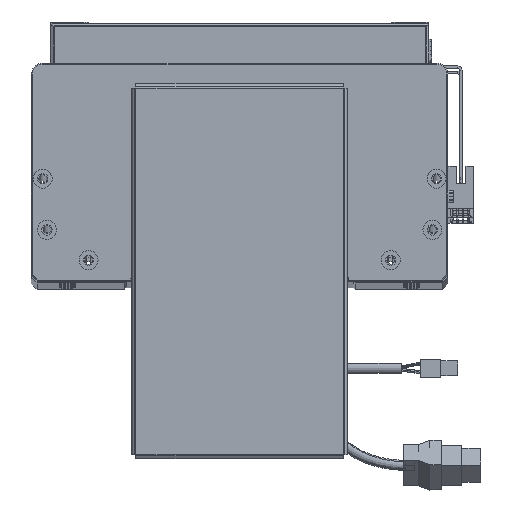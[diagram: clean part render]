
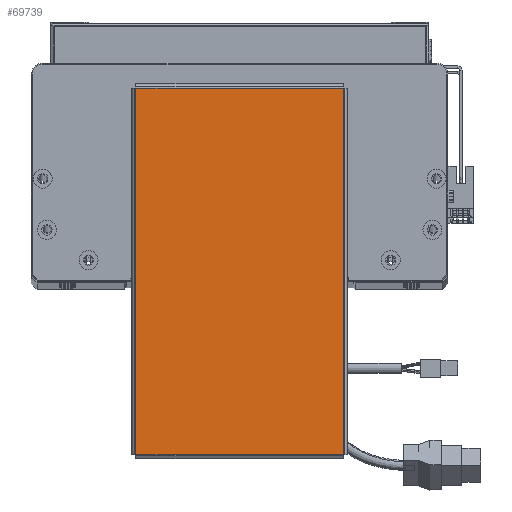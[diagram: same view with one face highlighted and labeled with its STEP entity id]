
A CAD part, top view. The second image highlights one B-rep face of the part: STEP entity #69739.
In plain terms, the highlighted planar face has unit normal (0, 0, 1).
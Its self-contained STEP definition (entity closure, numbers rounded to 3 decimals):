
#726 = DIRECTION ( 'NONE',  ( 0., 1., 0. ) ) ;
#3286 = ORIENTED_EDGE ( 'NONE', *, *, #60124, .T. ) ;
#7740 = CARTESIAN_POINT ( 'NONE',  ( 96.763, -54.763, 0. ) ) ;
#9242 = PLANE ( 'NONE',  #65693 ) ;
#9305 = VECTOR ( 'NONE', #40454, 1000. ) ;
#9410 = EDGE_CURVE ( 'NONE', #17621, #32108, #39994, .T. ) ;
#15852 = VECTOR ( 'NONE', #55892, 1000. ) ;
#16167 = VERTEX_POINT ( 'NONE', #57991 ) ;
#17596 = VECTOR ( 'NONE', #56429, 1000. ) ;
#17621 = VERTEX_POINT ( 'NONE', #43549 ) ;
#20040 = ORIENTED_EDGE ( 'NONE', *, *, #9410, .T. ) ;
#20904 = CARTESIAN_POINT ( 'NONE',  ( 0., 0., 0. ) ) ;
#27441 = EDGE_CURVE ( 'NONE', #32108, #16167, #60222, .T. ) ;
#28290 = CARTESIAN_POINT ( 'NONE',  ( -96.763, 54.793, 0. ) ) ;
#30490 = LINE ( 'NONE', #28290, #15852 ) ;
#32108 = VERTEX_POINT ( 'NONE', #7740 ) ;
#35984 = FACE_OUTER_BOUND ( 'NONE', #51076, .T. ) ;
#36862 = DIRECTION ( 'NONE',  ( 0., 0., 1. ) ) ;
#38262 = CARTESIAN_POINT ( 'NONE',  ( -96.763, 54.763, 0. ) ) ;
#38512 = VERTEX_POINT ( 'NONE', #38262 ) ;
#39994 = LINE ( 'NONE', #45860, #17596 ) ;
#40454 = DIRECTION ( 'NONE',  ( -1., 0., 0. ) ) ;
#41086 = LINE ( 'NONE', #45214, #9305 ) ;
#43549 = CARTESIAN_POINT ( 'NONE',  ( -96.763, -54.763, 0. ) ) ;
#43828 = EDGE_CURVE ( 'NONE', #38512, #17621, #30490, .T. ) ;
#45214 = CARTESIAN_POINT ( 'NONE',  ( 96.793, 54.763, 0. ) ) ;
#45860 = CARTESIAN_POINT ( 'NONE',  ( -96.793, -54.763, 0. ) ) ;
#47601 = DIRECTION ( 'NONE',  ( 1., 0., 0. ) ) ;
#51076 = EDGE_LOOP ( 'NONE', ( #20040, #65383, #3286, #52457 ) ) ;
#52457 = ORIENTED_EDGE ( 'NONE', *, *, #43828, .T. ) ;
#54195 = VECTOR ( 'NONE', #726, 1000. ) ;
#55892 = DIRECTION ( 'NONE',  ( 0., -1., 0. ) ) ;
#56429 = DIRECTION ( 'NONE',  ( 1., 0., 0. ) ) ;
#57991 = CARTESIAN_POINT ( 'NONE',  ( 96.763, 54.763, 0. ) ) ;
#60124 = EDGE_CURVE ( 'NONE', #16167, #38512, #41086, .T. ) ;
#60222 = LINE ( 'NONE', #66387, #54195 ) ;
#65383 = ORIENTED_EDGE ( 'NONE', *, *, #27441, .T. ) ;
#65693 = AXIS2_PLACEMENT_3D ( 'NONE', #20904, #36862, #47601 ) ;
#66387 = CARTESIAN_POINT ( 'NONE',  ( 96.763, -54.793, 0. ) ) ;
#69739 = ADVANCED_FACE ( 'NONE', ( #35984 ), #9242, .T. ) ;
